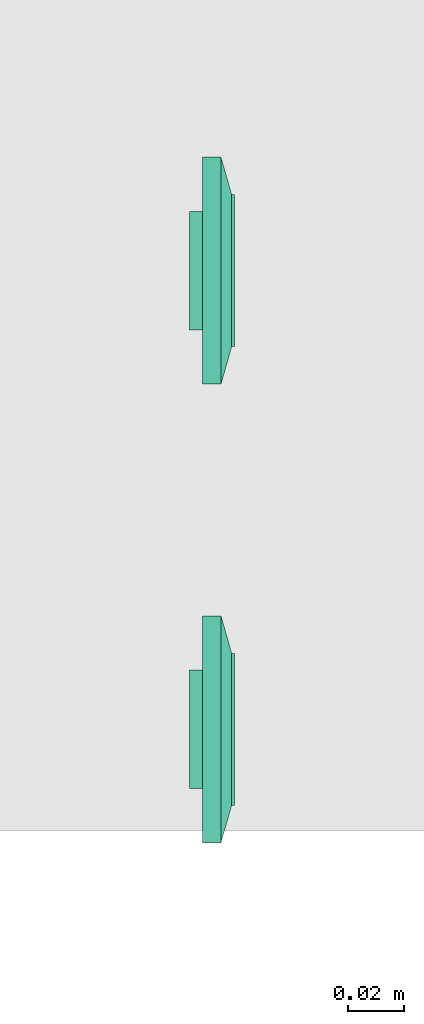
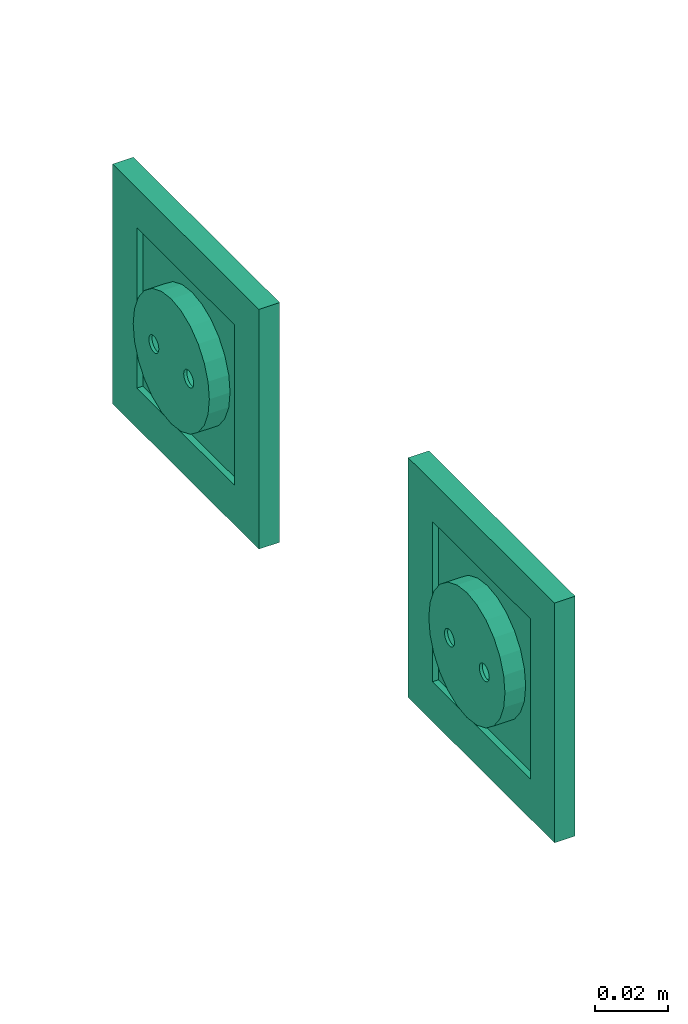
# One storey, part 10 of 146: 2 flow terminals.
"""IFC2X3 building model written with IfcOpenShell, lengths in metres."""

from ifc_helpers import new_model, entity, si_unit, converted_unit, derived_unit, direction, frame, origin, place, context, subcontext, project, spatial, face_set, surface_model, source, transform, mapped, type_object, type_shapes, element, save


model = new_model("IFC2X3")

# Units and contexts
model_context = context("Model", 3, precision=1e-05, world=origin(), true_north=direction((6.12303176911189e-17, 1.0)))
body_context = subcontext(model_context, "Body", "Model", "MODEL_VIEW")
ifc_project = project(units=[si_unit("LENGTHUNIT", "METRE"), si_unit("AREAUNIT", "SQUARE_METRE"), si_unit("VOLUMEUNIT", "CUBIC_METRE"), converted_unit("PLANEANGLEUNIT", "DEGREE", entity("IfcRatioMeasure", 0.0174532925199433), si_unit("PLANEANGLEUNIT", "RADIAN"), dimensions=[0, 0, 0, 0, 0, 0, 0]), si_unit("MASSUNIT", "GRAM", prefix="KILO"), derived_unit("MASSDENSITYUNIT", [(si_unit("MASSUNIT", "GRAM", prefix="KILO"), 1), (si_unit("LENGTHUNIT", "METRE"), -3)]), si_unit("TIMEUNIT", "SECOND"), si_unit("FREQUENCYUNIT", "HERTZ"), si_unit("THERMODYNAMICTEMPERATUREUNIT", "DEGREE_CELSIUS"), derived_unit("THERMALTRANSMITTANCEUNIT", [(si_unit("MASSUNIT", "GRAM", prefix="KILO"), 1), (si_unit("THERMODYNAMICTEMPERATUREUNIT", "KELVIN"), -1), (si_unit("TIMEUNIT", "SECOND"), -3)]), derived_unit("VOLUMETRICFLOWRATEUNIT", [(si_unit("LENGTHUNIT", "METRE"), 3), (si_unit("TIMEUNIT", "SECOND"), -1)]), si_unit("ELECTRICCURRENTUNIT", "AMPERE"), si_unit("ELECTRICVOLTAGEUNIT", "VOLT"), si_unit("POWERUNIT", "WATT"), si_unit("FORCEUNIT", "NEWTON"), si_unit("ILLUMINANCEUNIT", "LUX"), si_unit("LUMINOUSFLUXUNIT", "LUMEN"), si_unit("LUMINOUSINTENSITYUNIT", "CANDELA"), derived_unit("USERDEFINED", [(si_unit("MASSUNIT", "GRAM", prefix="KILO"), -1), (si_unit("LENGTHUNIT", "METRE"), -2), (si_unit("TIMEUNIT", "SECOND"), 3), (si_unit("LUMINOUSFLUXUNIT", "LUMEN"), 1)]), derived_unit("LINEARVELOCITYUNIT", [(si_unit("LENGTHUNIT", "METRE"), 1), (si_unit("TIMEUNIT", "SECOND"), -1)]), si_unit("PRESSUREUNIT", "PASCAL"), derived_unit("USERDEFINED", [(si_unit("LENGTHUNIT", "METRE"), -2), (si_unit("MASSUNIT", "GRAM", prefix="KILO"), 1), (si_unit("TIMEUNIT", "SECOND"), -2)])], contexts=[model_context])

# Site, building, storey
site_placement = place(None, origin())
site = spatial("IfcSite", under=ifc_project, at=site_placement, Name="Default", CompositionType="ELEMENT")
building_placement = place(site_placement, origin())
building = spatial("IfcBuilding", under=site, at=building_placement, CompositionType="ELEMENT")
storey_placement = place(building_placement, origin())
storey = spatial("IfcBuildingStorey", under=building, at=storey_placement, Name="S01", CompositionType="ELEMENT", Elevation=0.0)

# Flow terminals
light_fixture_type = type_object("IfcLightFixtureType", Name="PC IP20", PredefinedType="NOTDEFINED")
shared_shape = source(origin(), body_context, "Body", "SurfaceModel", [
    surface_model("IfcFaceBasedSurfaceModel", [(-0.00225000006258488, 0.0127499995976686, 0.00949633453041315), (0.0, 0.0104999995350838, 0.00949633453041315), (0.0, 0.0115376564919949, 0.0101656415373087), (0.0, 0.0139623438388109, 0.0101656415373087), (0.0, 0.0144589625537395, 0.00984531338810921), (0.0, 0.0121178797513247, 0.0102778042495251), (0.0, 0.0133821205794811, 0.0102778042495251), (0.0, 0.0127499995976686, 0.010399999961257), (0.0, 0.0149999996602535, 0.00949633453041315), (0.00225000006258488, 0.0127499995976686, 0.00949633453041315), (0.0, 0.0110410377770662, 0.00984531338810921), (0.0, 0.0127499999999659, 0.00949633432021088), (0.00225000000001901, 0.0127499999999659, 0.00949633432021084), (0.00217333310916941, 0.0121676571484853, 0.00949633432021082), (0.00194855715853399, 0.0116249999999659, 0.00949633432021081), (0.00159099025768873, 0.0111590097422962, 0.00949633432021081), (0.001125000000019, 0.010801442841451, 0.00949633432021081), (0.00058234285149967, 0.0105766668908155, 0.00949633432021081), (0.0, 0.0104999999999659, 0.00949633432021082), (-0.000582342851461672, 0.0105766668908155, 0.00949633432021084), (-0.001124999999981, 0.010801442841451, 0.00949633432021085), (-0.00159099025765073, 0.0111590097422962, 0.00949633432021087), (-0.00194855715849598, 0.011624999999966, 0.00949633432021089), (-0.0021733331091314, 0.0121676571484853, 0.00949633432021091), (-0.00224999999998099, 0.012749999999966, 0.00949633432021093), (-0.00217333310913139, 0.0133323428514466, 0.00949633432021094), (-0.00194855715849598, 0.013874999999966, 0.00949633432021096), (-0.00159099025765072, 0.0143409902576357, 0.00949633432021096), (-0.00112499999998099, 0.0146985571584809, 0.00949633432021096), (-0.00058234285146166, 0.0149233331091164, 0.00949633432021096), (0.0, 0.0149999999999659, 0.00949633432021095), (0.000582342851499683, 0.0149233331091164, 0.00949633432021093), (0.00112500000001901, 0.0146985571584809, 0.00949633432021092), (0.00159099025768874, 0.0143409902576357, 0.00949633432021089), (0.001948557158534, 0.0138749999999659, 0.00949633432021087), (0.00217333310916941, 0.0133323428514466, 0.00949633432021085), (0.00225000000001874, 0.0127499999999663, -0.00360000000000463), (0.00217333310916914, 0.0121676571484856, -0.00360000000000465), (0.00194855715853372, 0.0116249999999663, -0.00360000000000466), (0.00159099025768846, 0.0111590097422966, -0.00360000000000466), (0.00112500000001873, 0.0108014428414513, -0.00360000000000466), (0.000582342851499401, 0.0105766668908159, -0.00360000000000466), (0.0, 0.0104999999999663, -0.00360000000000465), (-0.000582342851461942, 0.0105766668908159, -0.00360000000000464), (-0.00112499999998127, 0.0108014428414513, -0.00360000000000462), (-0.001590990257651, 0.0111590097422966, -0.0036000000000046), (-0.00194855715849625, 0.0116249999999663, -0.00360000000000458), (-0.00217333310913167, 0.0121676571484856, -0.00360000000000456), (-0.00224999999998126, 0.0127499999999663, -0.00360000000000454), (-0.00217333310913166, 0.013332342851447, -0.00360000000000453), (-0.00194855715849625, 0.0138749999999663, -0.00360000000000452), (-0.00159099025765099, 0.014340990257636, -0.00360000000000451), (-0.00112499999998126, 0.0146985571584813, -0.00360000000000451), (-0.000582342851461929, 0.0149233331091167, -0.00360000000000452), (0.0, 0.0149999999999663, -0.00360000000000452), (0.000582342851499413, 0.0149233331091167, -0.00360000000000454), (0.00112500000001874, 0.0146985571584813, -0.00360000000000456), (0.00159099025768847, 0.014340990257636, -0.00360000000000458), (0.00194855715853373, 0.0138749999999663, -0.0036000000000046), (0.00217333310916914, 0.013332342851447, -0.00360000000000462), (0.0270000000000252, 0.026999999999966, 0.0113999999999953), (-0.0269999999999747, 0.026999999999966, 0.0113999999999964), (-0.0269999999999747, -0.0270000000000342, 0.0113999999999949), (0.0270000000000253, -0.0270000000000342, 0.0113999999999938), (-0.0199999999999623, 0.0, 0.0113999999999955), (-0.0193185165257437, -0.00517638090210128, 0.0113999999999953), (-0.0173205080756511, -0.0100000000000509, 0.0113999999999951), (-0.0141421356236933, -0.0141421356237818, 0.011399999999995), (-0.00999999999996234, -0.0173205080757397, 0.0113999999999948), (-0.00517638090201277, -0.0193185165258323, 0.0113999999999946), (0.0, -0.0200000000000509, 0.0113999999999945), (0.00517638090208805, -0.0193185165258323, 0.0113999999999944), (0.0100000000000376, -0.0173205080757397, 0.0113999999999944), (0.0141421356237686, -0.0141421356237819, 0.0113999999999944), (0.0173205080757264, -0.010000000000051, 0.0113999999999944), (0.0193185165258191, -0.00517638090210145, 0.0113999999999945), (0.0200000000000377, 0.0, 0.0113999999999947), (0.0193185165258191, 0.00517638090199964, 0.0113999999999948), (0.0173205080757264, 0.0099999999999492, 0.011399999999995), (0.0141421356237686, 0.0141421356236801, 0.0113999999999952), (0.0100000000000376, 0.0173205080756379, 0.0113999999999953), (0.00517638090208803, 0.0193185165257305, 0.0113999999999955), (0.0, 0.0199999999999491, 0.0113999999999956), (-0.00517638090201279, 0.0193185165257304, 0.0113999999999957), (-0.00999999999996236, 0.0173205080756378, 0.0113999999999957), (-0.0141421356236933, 0.01414213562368, 0.0113999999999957), (-0.0173205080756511, 0.00999999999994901, 0.0113999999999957), (-0.0193185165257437, 0.00517638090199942, 0.0113999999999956), (0.0270000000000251, 0.0269999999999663, 0.00199999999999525), (0.0270000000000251, -0.0270000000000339, 0.00199999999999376), (-0.0269999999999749, -0.0270000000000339, 0.00199999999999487), (-0.0269999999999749, 0.0269999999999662, 0.00199999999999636), (0.0210000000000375, 0.0, 0.00199999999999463), (0.0202844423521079, -0.00543519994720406, 0.00199999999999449), (0.0181865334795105, -0.0105000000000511, 0.0019999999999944), (0.0148492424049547, -0.0148492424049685, 0.00199999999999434), (0.0105000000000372, -0.0181865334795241, 0.00199999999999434), (0.0054351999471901, -0.0202844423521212, 0.00199999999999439), (0.0, -0.0210000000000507, 0.00199999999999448), (-0.00543519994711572, -0.020284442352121, 0.00199999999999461), (-0.0104999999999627, -0.0181865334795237, 0.00199999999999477), (-0.0148492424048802, -0.014849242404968, 0.00199999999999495), (-0.0181865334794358, -0.0105000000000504, 0.00199999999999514), (-0.020284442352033, -0.00543519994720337, 0.00199999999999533), (-0.0209999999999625, 0.0, 0.00199999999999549), (-0.0202844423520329, 0.0054351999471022, 0.00199999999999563), (-0.0181865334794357, 0.0104999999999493, 0.00199999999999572), (-0.01484924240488, 0.0148492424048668, 0.00199999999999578), (-0.0104999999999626, 0.0181865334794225, 0.00199999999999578), (-0.00543519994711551, 0.0202844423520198, 0.00199999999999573), (0.0, 0.0209999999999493, 0.00199999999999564), (0.00543519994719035, 0.0202844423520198, 0.00199999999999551), (0.0105000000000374, 0.0181865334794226, 0.00199999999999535), (0.0148492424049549, 0.0148492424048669, 0.00199999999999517), (0.0181865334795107, 0.0104999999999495, 0.00199999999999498), (0.0202844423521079, 0.00543519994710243, 0.00199999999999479), (0.0200000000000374, 0.0, -0.00360000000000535), (0.0193185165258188, -0.00517638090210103, -0.00360000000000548), (0.0173205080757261, -0.0100000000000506, -0.00360000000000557), (0.0141421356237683, -0.0141421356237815, -0.00360000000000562), (0.0100000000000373, -0.0173205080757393, -0.00360000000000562), (0.00517638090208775, -0.0193185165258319, -0.00360000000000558), (0.0, -0.0200000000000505, -0.00360000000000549), (-0.00517638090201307, -0.0193185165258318, -0.00360000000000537), (-0.00999999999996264, -0.0173205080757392, -0.00360000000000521), (-0.0141421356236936, -0.0141421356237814, -0.00360000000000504), (-0.0173205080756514, -0.0100000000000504, -0.00360000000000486), (-0.019318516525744, -0.00517638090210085, -0.00360000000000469), (-0.0199999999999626, 0.0, -0.00360000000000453), (-0.0193185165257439, 0.00517638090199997, -0.0036000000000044), (-0.0173205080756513, 0.00999999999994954, -0.00360000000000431), (-0.0141421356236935, 0.0141421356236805, -0.00360000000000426), (-0.00999999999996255, 0.0173205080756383, -0.00360000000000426), (-0.00517638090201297, 0.0193185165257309, -0.0036000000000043), (0.0, 0.0199999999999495, -0.00360000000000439), (0.00517638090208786, 0.0193185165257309, -0.00360000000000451), (0.0100000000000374, 0.0173205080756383, -0.00360000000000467), (0.0141421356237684, 0.0141421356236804, -0.00360000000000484), (0.0173205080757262, 0.0099999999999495, -0.00360000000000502), (0.0193185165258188, 0.00517638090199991, -0.00360000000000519), (-0.0123499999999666, 0.0, -0.00360000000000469), (-0.0122562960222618, -0.000711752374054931, -0.00360000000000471), (-0.0119815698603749, -0.00137500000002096, -0.00360000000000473), (-0.0115445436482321, -0.00194454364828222, -0.00360000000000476), (-0.0109749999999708, -0.00238156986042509, -0.00360000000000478), (-0.0103117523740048, -0.00265629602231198, -0.0036000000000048), (-0.00959999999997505, -0.00275000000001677, -0.00360000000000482), (-0.0088882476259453, -0.00265629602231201, -0.00360000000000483), (-0.00822499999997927, -0.00238156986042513, -0.00360000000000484), (-0.00765545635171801, -0.00194454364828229, -0.00360000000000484), (-0.00721843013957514, -0.00137500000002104, -0.00360000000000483), (-0.00694370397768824, -0.000711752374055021, -0.00360000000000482), (-0.00684999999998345, 0.0, -0.0036000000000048), (-0.00694370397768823, 0.000711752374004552, -0.00360000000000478), (-0.00721843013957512, 0.00137499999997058, -0.00360000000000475), (-0.00765545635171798, 0.00194454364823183, -0.00360000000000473), (-0.00822499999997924, 0.00238156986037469, -0.0036000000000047), (-0.00888824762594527, 0.00265629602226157, -0.00360000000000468), (-0.00959999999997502, 0.00274999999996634, -0.00360000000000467), (-0.0103117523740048, 0.00265629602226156, -0.00360000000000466), (-0.0109749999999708, 0.00238156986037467, -0.00360000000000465), (-0.011544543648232, 0.00194454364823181, -0.00360000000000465), (-0.0119815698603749, 0.00137499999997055, -0.00360000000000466), (-0.0122562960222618, 0.000711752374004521, -0.00360000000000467), (0.00685000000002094, 0.0, -0.00360000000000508), (0.0069437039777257, -0.00071175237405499, -0.0036000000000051), (0.00721843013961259, -0.00137500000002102, -0.00360000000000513), (0.00765545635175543, -0.00194454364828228, -0.00360000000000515), (0.00822500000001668, -0.00238156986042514, -0.00360000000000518), (0.00888824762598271, -0.00265629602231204, -0.0036000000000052), (0.00960000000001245, -0.00275000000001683, -0.00360000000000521), (0.0103117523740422, -0.00265629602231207, -0.00360000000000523), (0.0109750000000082, -0.00238156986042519, -0.00360000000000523), (0.0115445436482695, -0.00194454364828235, -0.00360000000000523), (0.0119815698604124, -0.0013750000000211, -0.00360000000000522), (0.0122562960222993, -0.00071175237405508, -0.00360000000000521), (0.012350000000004, 0.0, -0.00360000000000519), (0.0122562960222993, 0.000711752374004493, -0.00360000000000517), (0.0119815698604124, 0.00137499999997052, -0.00360000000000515), (0.0115445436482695, 0.00194454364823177, -0.00360000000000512), (0.0109750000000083, 0.00238156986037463, -0.0036000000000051), (0.0103117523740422, 0.00265629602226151, -0.00360000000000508), (0.00960000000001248, 0.00274999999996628, -0.00360000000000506), (0.00888824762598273, 0.0026562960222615, -0.00360000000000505), (0.0082250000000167, 0.00238156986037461, -0.00360000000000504), (0.00765545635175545, 0.00194454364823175, -0.00360000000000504), (0.0072184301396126, 0.00137499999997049, -0.00360000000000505), (0.00694370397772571, 0.000711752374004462, -0.00360000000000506), (0.0210000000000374, 0.0, -0.00460000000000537), (0.0202844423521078, -0.00543519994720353, -0.00460000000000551), (0.0181865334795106, -0.0105000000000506, -0.0046000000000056), (0.0148492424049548, -0.0148492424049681, -0.00460000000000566), (0.0105000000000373, -0.0181865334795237, -0.00460000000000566), (0.00543519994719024, -0.0202844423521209, -0.00460000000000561), (0.0, -0.0210000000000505, -0.00460000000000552), (-0.00543519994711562, -0.0202844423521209, -0.00460000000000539), (-0.0104999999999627, -0.0181865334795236, -0.00460000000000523), (-0.0148492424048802, -0.0148492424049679, -0.00460000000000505), (-0.0181865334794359, -0.0105000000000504, -0.00460000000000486), (-0.0202844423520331, -0.00543519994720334, -0.00460000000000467), (-0.0209999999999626, 0.0, -0.00460000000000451), (-0.020284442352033, 0.00543519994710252, -0.00460000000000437), (-0.0181865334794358, 0.0104999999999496, -0.00460000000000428), (-0.0148492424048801, 0.0148492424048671, -0.00460000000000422), (-0.0104999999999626, 0.0181865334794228, -0.00460000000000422), (-0.00543519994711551, 0.02028444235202, -0.00460000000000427), (0.0, 0.0209999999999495, -0.00460000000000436), (0.00543519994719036, 0.02028444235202, -0.00460000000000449), (0.0105000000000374, 0.0181865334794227, -0.00460000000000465), (0.0148492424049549, 0.014849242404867, -0.00460000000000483), (0.0181865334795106, 0.0104999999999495, -0.00460000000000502), (0.0202844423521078, 0.00543519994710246, -0.00460000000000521), (-0.00684999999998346, 0.0, -0.0046000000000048), (-0.00694370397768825, 0.000711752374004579, -0.00460000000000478), (-0.00721843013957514, 0.00137499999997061, -0.00460000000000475), (-0.007655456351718, 0.00194454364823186, -0.00460000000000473), (-0.00822499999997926, 0.00238156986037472, -0.0046000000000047), (-0.00888824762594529, 0.0026562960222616, -0.00460000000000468), (-0.00959999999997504, 0.00274999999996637, -0.00460000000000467), (-0.0103117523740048, 0.00265629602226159, -0.00460000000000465), (-0.0109749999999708, 0.0023815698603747, -0.00460000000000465), (-0.0115445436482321, 0.00194454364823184, -0.00460000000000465), (-0.0119815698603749, 0.00137499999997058, -0.00460000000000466), (-0.0122562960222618, 0.000711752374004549, -0.00460000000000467), (-0.0123499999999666, 0.0, -0.00460000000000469), (-0.0122562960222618, -0.000711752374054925, -0.00460000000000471), (-0.0119815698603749, -0.00137500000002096, -0.00460000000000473), (-0.0115445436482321, -0.00194454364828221, -0.00460000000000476), (-0.0109749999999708, -0.00238156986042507, -0.00460000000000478), (-0.0103117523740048, -0.00265629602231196, -0.0046000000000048), (-0.00959999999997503, -0.00275000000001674, -0.00460000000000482), (-0.00888824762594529, -0.00265629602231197, -0.00460000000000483), (-0.00822499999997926, -0.00238156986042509, -0.00460000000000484), (-0.007655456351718, -0.00194454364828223, -0.00460000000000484), (-0.00721843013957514, -0.00137500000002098, -0.00460000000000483), (-0.00694370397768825, -0.000711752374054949, -0.00460000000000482), (0.012350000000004, 0.0, -0.00460000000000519), (0.0122562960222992, 0.000711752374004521, -0.00460000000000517), (0.0119815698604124, 0.00137499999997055, -0.00460000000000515), (0.0115445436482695, 0.0019445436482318, -0.00460000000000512), (0.0109750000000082, 0.00238156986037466, -0.0046000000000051), (0.0103117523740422, 0.00265629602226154, -0.00460000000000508), (0.00960000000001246, 0.00274999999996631, -0.00460000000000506), (0.00888824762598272, 0.00265629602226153, -0.00460000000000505), (0.00822500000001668, 0.00238156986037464, -0.00460000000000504), (0.00765545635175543, 0.00194454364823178, -0.00460000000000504), (0.00721843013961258, 0.00137499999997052, -0.00460000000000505), (0.00694370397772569, 0.00071175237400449, -0.00460000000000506), (0.00685000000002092, 0.0, -0.00460000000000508), (0.00694370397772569, -0.000711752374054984, -0.0046000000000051), (0.00721843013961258, -0.00137500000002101, -0.00460000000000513), (0.00765545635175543, -0.00194454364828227, -0.00460000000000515), (0.00822500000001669, -0.00238156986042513, -0.00460000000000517), (0.00888824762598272, -0.00265629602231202, -0.0046000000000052), (0.00960000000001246, -0.0027500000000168, -0.00460000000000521), (0.0103117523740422, -0.00265629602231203, -0.00460000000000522), (0.0109750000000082, -0.00238156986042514, -0.00460000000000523), (0.0115445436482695, -0.00194454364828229, -0.00460000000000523), (0.0119815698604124, -0.00137500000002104, -0.00460000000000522), (0.0122562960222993, -0.000711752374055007, -0.00460000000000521), (0.040350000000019, 0.0403499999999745, 0.00659999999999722), (0.040350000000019, -0.0403500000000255, 0.00659999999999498), (-0.0403499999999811, -0.0403500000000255, 0.00659999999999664), (-0.0403499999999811, 0.0403499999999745, 0.00659999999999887), (0.027000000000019, 0.0269999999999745, 0.00659999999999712), (-0.0269999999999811, 0.0269999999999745, 0.00659999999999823), (-0.026999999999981, -0.0270000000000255, 0.00659999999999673), (0.027000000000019, -0.0270000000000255, 0.00659999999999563), (0.027000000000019, 0.0269999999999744, 0.0103999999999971), (-0.026999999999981, 0.0269999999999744, 0.0103999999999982), (-0.026999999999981, -0.0270000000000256, 0.0103999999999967), (0.027000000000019, -0.0270000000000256, 0.0103999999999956), (0.040350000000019, 0.0403499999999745, 0.00659999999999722), (0.040350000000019, -0.0403500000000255, 0.00659999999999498), (-0.0403499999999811, -0.0403500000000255, 0.00659999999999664), (-0.0403499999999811, 0.0403499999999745, 0.00659999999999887), (-0.0269999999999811, 0.0269999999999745, 0.00659999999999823), (-0.0269999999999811, -0.0270000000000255, 0.00659999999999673), (0.0270000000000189, -0.0270000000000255, 0.00659999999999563), (0.0270000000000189, 0.0269999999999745, 0.00659999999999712), (0.0403500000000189, 0.0403499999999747, 0.0), (0.0403500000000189, -0.0403500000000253, 0.0), (-0.0403499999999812, -0.0403500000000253, 0.0), (-0.0403499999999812, 0.0403499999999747, 0.0), (0.0270000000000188, 0.0269999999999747, 0.0), (-0.0269999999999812, 0.0269999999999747, 0.0), (-0.0269999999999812, -0.0270000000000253, 0.0), (0.0270000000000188, -0.0270000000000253, 0.0)], [face_set([[[0, 1, 2]], [[3, 4, 2, 5]], [[6, 3, 5, 7]], [[2, 4, 0]], [[4, 8, 0]], [[3, 9, 8]], [[1, 9, 10]], [[2, 3, 6, 7]], [[3, 10, 9]], [[2, 10, 3]], [[11, 1, 0, 8]], [[11, 8, 9, 1]]]), face_set([[[12, 13, 14, 15, 16, 17, 18, 19, 20, 21, 22, 23, 24, 25, 26, 27, 28, 29, 30, 31, 32, 33, 34, 35]], [[36, 37, 38, 39, 40, 41, 42, 43, 44, 45, 46, 47, 48, 49, 50, 51, 52, 53, 54, 55, 56, 57, 58, 59]], [[48, 47, 23, 24]], [[47, 46, 22, 23]], [[45, 44, 20, 21]], [[46, 45, 21, 22]], [[44, 43, 19, 20]], [[18, 19, 43, 42]], [[42, 41, 17, 18]], [[41, 40, 16, 17]], [[39, 38, 14, 15]], [[40, 39, 15, 16]], [[38, 37, 13, 14]], [[12, 13, 37, 36]], [[36, 59, 35, 12]], [[59, 58, 34, 35]], [[57, 56, 32, 33]], [[58, 57, 33, 34]], [[56, 55, 31, 32]], [[30, 31, 55, 54]], [[54, 53, 29, 30]], [[53, 52, 28, 29]], [[51, 50, 26, 27]], [[52, 51, 27, 28]], [[50, 49, 25, 26]], [[24, 25, 49, 48]]]), face_set([[[60, 61, 62, 63], [64, 65, 66, 67, 68, 69, 70, 71, 72, 73, 74, 75, 76, 77, 78, 79, 80, 81, 82, 83, 84, 85, 86, 87]], [[88, 89, 90, 91], [92, 93, 94, 95, 96, 97, 98, 99, 100, 101, 102, 103, 104, 105, 106, 107, 108, 109, 110, 111, 112, 113, 114, 115]], [[61, 60, 88, 91]], [[62, 61, 91, 90]], [[63, 62, 90, 89]], [[60, 63, 89, 88]], [[116, 117, 118, 119, 120, 121, 122, 123, 124, 125, 126, 127, 128, 129, 130, 131, 132, 133, 134, 135, 136, 137, 138, 139], [140, 141, 142, 143, 144, 145, 146, 147, 148, 149, 150, 151, 152, 153, 154, 155, 156, 157, 158, 159, 160, 161, 162, 163], [164, 165, 166, 167, 168, 169, 170, 171, 172, 173, 174, 175, 176, 177, 178, 179, 180, 181, 182, 183, 184, 185, 186, 187]], [[64, 128, 127, 65]], [[65, 127, 126, 66]], [[67, 125, 124, 68]], [[66, 126, 125, 67]], [[68, 124, 123, 69]], [[122, 70, 69, 123]], [[70, 122, 121, 71]], [[71, 121, 120, 72]], [[73, 119, 118, 74]], [[72, 120, 119, 73]], [[74, 118, 117, 75]], [[116, 76, 75, 117]], [[76, 116, 139, 77]], [[77, 139, 138, 78]], [[79, 137, 136, 80]], [[78, 138, 137, 79]], [[80, 136, 135, 81]], [[134, 82, 81, 135]], [[82, 134, 133, 83]], [[83, 133, 132, 84]], [[84, 132, 131, 85]], [[85, 131, 130, 86]], [[130, 129, 87, 86]], [[64, 87, 129, 128]], [[188, 189, 190, 191, 192, 193, 194, 195, 196, 197, 198, 199, 200, 201, 202, 203, 204, 205, 206, 207, 208, 209, 210, 211], [212, 213, 214, 215, 216, 217, 218, 219, 220, 221, 222, 223, 224, 225, 226, 227, 228, 229, 230, 231, 232, 233, 234, 235], [236, 237, 238, 239, 240, 241, 242, 243, 244, 245, 246, 247, 248, 249, 250, 251, 252, 253, 254, 255, 256, 257, 258, 259]], [[200, 199, 103, 104]], [[199, 198, 102, 103]], [[197, 196, 100, 101]], [[198, 197, 101, 102]], [[196, 195, 99, 100]], [[98, 99, 195, 194]], [[194, 193, 97, 98]], [[193, 192, 96, 97]], [[191, 190, 94, 95]], [[192, 191, 95, 96]], [[190, 189, 93, 94]], [[92, 93, 189, 188]], [[188, 211, 115, 92]], [[211, 210, 114, 115]], [[209, 208, 112, 113]], [[210, 209, 113, 114]], [[208, 207, 111, 112]], [[110, 111, 207, 206]], [[206, 205, 109, 110]], [[205, 204, 108, 109]], [[203, 202, 106, 107]], [[204, 203, 107, 108]], [[202, 201, 105, 106]], [[104, 105, 201, 200]], [[141, 225, 226, 142]], [[140, 224, 225, 141]], [[144, 228, 229, 145]], [[143, 227, 228, 144]], [[142, 226, 227, 143]], [[230, 146, 145, 229]], [[149, 233, 232, 148]], [[148, 232, 231, 147]], [[152, 212, 235, 151]], [[151, 235, 234, 150]], [[150, 234, 233, 149]], [[146, 230, 231, 147]], [[154, 214, 213, 153]], [[153, 213, 212, 152]], [[157, 217, 216, 156]], [[156, 216, 215, 155]], [[155, 215, 214, 154]], [[218, 158, 157, 217]], [[160, 220, 221, 161]], [[159, 219, 220, 160]], [[163, 223, 224, 140]], [[162, 222, 223, 163]], [[161, 221, 222, 162]], [[158, 218, 219, 159]], [[166, 250, 249, 165]], [[165, 249, 248, 164]], [[169, 253, 252, 168]], [[168, 252, 251, 167]], [[167, 251, 250, 166]], [[254, 170, 169, 253]], [[172, 256, 257, 173]], [[171, 255, 256, 172]], [[175, 259, 236, 176]], [[174, 258, 259, 175]], [[173, 257, 258, 174]], [[170, 254, 255, 171]], [[177, 237, 238, 178]], [[176, 236, 237, 177]], [[180, 240, 241, 181]], [[179, 239, 240, 180]], [[178, 238, 239, 179]], [[242, 182, 181, 241]], [[185, 245, 244, 184]], [[184, 244, 243, 183]], [[164, 248, 247, 187]], [[187, 247, 246, 186]], [[186, 246, 245, 185]], [[182, 242, 243, 183]]]), face_set([[[260, 261, 262, 263], [264, 265, 266, 267]], [[260, 268, 269, 263]], [[263, 269, 270, 262]], [[262, 270, 271, 261]], [[261, 271, 268, 260]], [[264, 265, 269, 268]], [[265, 266, 270, 269]], [[266, 267, 271, 270]], [[268, 271, 267, 264]]]), face_set([[[272, 273, 274, 275], [276, 277, 278, 279]], [[280, 281, 282, 283], [284, 285, 286, 287]], [[275, 272, 280, 283]], [[274, 275, 283, 282]], [[273, 274, 282, 281]], [[272, 273, 281, 280]], [[284, 285, 276, 279]], [[285, 286, 277, 276]], [[286, 287, 278, 277]], [[279, 278, 287, 284]]])]),
])
type_shapes(light_fixture_type, [shared_shape])
for number, where, z_axis, x_axis in (
    (1, (26.1922872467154, -189.510319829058, 0.320000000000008), (1.0, 0.0, 0.0), (0.0, 1.0, 0.0)),
    (2, (26.1922872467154, -189.347319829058, 0.320000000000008), (1.0, 0.0, 0.0), (0.0, 1.0, 0.0)),
):
    element("IfcFlowTerminal", number, at=place(storey_placement, frame(where, z_axis=z_axis, x_axis=x_axis)), inside=storey, type_object=light_fixture_type, Name="INT Prise de courant:PC IP20", ObjectType="INT Prise de courant:PC IP20", context=body_context, shape_type="MappedRepresentation", body=[
        mapped(shared_shape, transform((0.0, 0.0, 0.0), scale=1.0)),
    ])

save(model, "model.ifc")
